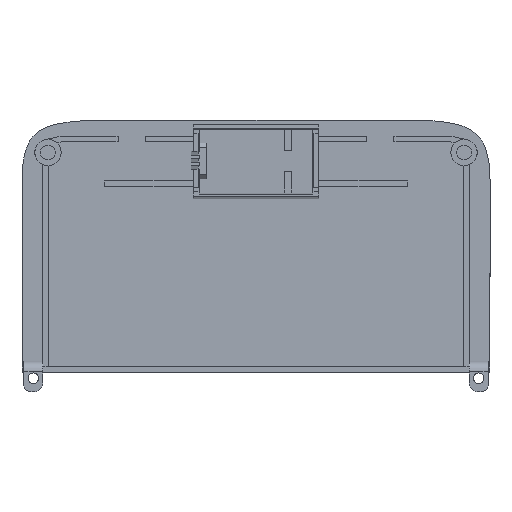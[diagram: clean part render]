
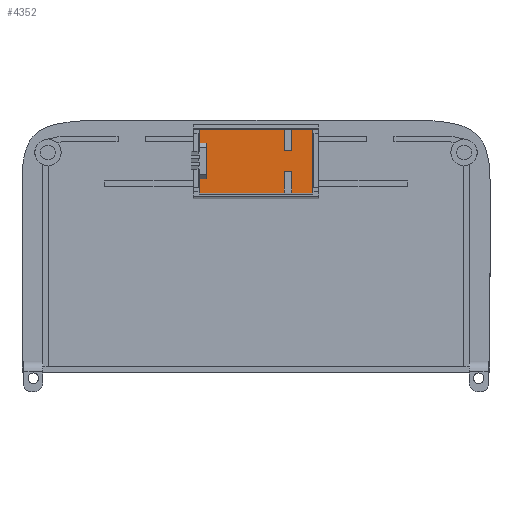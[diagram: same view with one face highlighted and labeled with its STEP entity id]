
A CAD part, top view. The second image highlights one B-rep face of the part: STEP entity #4352.
In plain terms, the highlighted planar face has unit normal (0, 0, 1).
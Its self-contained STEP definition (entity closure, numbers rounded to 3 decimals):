
#1 = ORIENTED_EDGE ( 'NONE', *, *, #3543, .T. ) ;
#22 = DIRECTION ( 'NONE',  ( 1., 0., 0. ) ) ;
#27 = ORIENTED_EDGE ( 'NONE', *, *, #4288, .T. ) ;
#47 = CARTESIAN_POINT ( 'NONE',  ( -8., 57.15, -2.8 ) ) ;
#105 = CARTESIAN_POINT ( 'NONE',  ( -8., 64.15, -2.8 ) ) ;
#112 = DIRECTION ( 'NONE',  ( -1., 0., 0. ) ) ;
#142 = CARTESIAN_POINT ( 'NONE',  ( 4., 57.15, -2.8 ) ) ;
#211 = EDGE_CURVE ( 'NONE', #1122, #4552, #3691, .T. ) ;
#263 = EDGE_CURVE ( 'NONE', #2729, #352, #2536, .T. ) ;
#318 = ORIENTED_EDGE ( 'NONE', *, *, #3169, .T. ) ;
#338 = CARTESIAN_POINT ( 'NONE',  ( 4., 63.15, -2.8 ) ) ;
#352 = VERTEX_POINT ( 'NONE', #2835 ) ;
#358 = EDGE_CURVE ( 'NONE', #4432, #2198, #402, .T. ) ;
#371 = ORIENTED_EDGE ( 'NONE', *, *, #1194, .T. ) ;
#376 = LINE ( 'NONE', #2560, #3857 ) ;
#402 = LINE ( 'NONE', #3918, #3439 ) ;
#453 = VECTOR ( 'NONE', #3866, 1000. ) ;
#467 = FACE_OUTER_BOUND ( 'NONE', #1565, .T. ) ;
#543 = DIRECTION ( 'NONE',  ( 0., 1., 0. ) ) ;
#578 = CARTESIAN_POINT ( 'NONE',  ( -7., 64.15, -2.8 ) ) ;
#605 = VERTEX_POINT ( 'NONE', #1040 ) ;
#645 = AXIS2_PLACEMENT_3D ( 'NONE', #3662, #2299, #112 ) ;
#673 = VECTOR ( 'NONE', #1098, 1000. ) ;
#699 = LINE ( 'NONE', #2123, #1478 ) ;
#718 = VECTOR ( 'NONE', #2447, 1000. ) ;
#756 = VECTOR ( 'NONE', #2478, 1000. ) ;
#776 = DIRECTION ( 'NONE',  ( 0., -1., 0. ) ) ;
#836 = LINE ( 'NONE', #2265, #3159 ) ;
#845 = PLANE ( 'NONE',  #645 ) ;
#848 = CARTESIAN_POINT ( 'NONE',  ( -8., 59.15, -2.8 ) ) ;
#1020 = DIRECTION ( 'NONE',  ( 1., 0., 0. ) ) ;
#1028 = VERTEX_POINT ( 'NONE', #2959 ) ;
#1038 = LINE ( 'NONE', #2402, #718 ) ;
#1040 = CARTESIAN_POINT ( 'NONE',  ( 8., 66.15, -2.8 ) ) ;
#1049 = EDGE_CURVE ( 'NONE', #1921, #2729, #1950, .T. ) ;
#1098 = DIRECTION ( 'NONE',  ( 0., -1., 0. ) ) ;
#1122 = VERTEX_POINT ( 'NONE', #1199 ) ;
#1160 = VECTOR ( 'NONE', #4643, 1000. ) ;
#1194 = EDGE_CURVE ( 'NONE', #3658, #1028, #4420, .T. ) ;
#1199 = CARTESIAN_POINT ( 'NONE',  ( 4., 66.15, -2.8 ) ) ;
#1242 = CARTESIAN_POINT ( 'NONE',  ( -8., 66.15, -2.8 ) ) ;
#1250 = LINE ( 'NONE', #142, #4396 ) ;
#1287 = CARTESIAN_POINT ( 'NONE',  ( 4., 66.15, -2.8 ) ) ;
#1308 = CARTESIAN_POINT ( 'NONE',  ( -8., 59.15, -2.8 ) ) ;
#1398 = CARTESIAN_POINT ( 'NONE',  ( 4., 63.15, -2.8 ) ) ;
#1476 = LINE ( 'NONE', #4315, #673 ) ;
#1478 = VECTOR ( 'NONE', #3560, 1000. ) ;
#1488 = CARTESIAN_POINT ( 'NONE',  ( -8., 64.15, -2.8 ) ) ;
#1506 = CARTESIAN_POINT ( 'NONE',  ( 5., 57.15, -2.8 ) ) ;
#1531 = ORIENTED_EDGE ( 'NONE', *, *, #263, .T. ) ;
#1558 = EDGE_CURVE ( 'NONE', #3130, #1921, #836, .T. ) ;
#1565 = EDGE_LOOP ( 'NONE', ( #371, #2399, #318, #2818, #2488, #4139, #2420, #1874, #1531, #1, #1854, #3238, #2158, #2642, #2793, #27 ) ) ;
#1848 = CARTESIAN_POINT ( 'NONE',  ( 4., 57.15, -2.8 ) ) ;
#1854 = ORIENTED_EDGE ( 'NONE', *, *, #1904, .T. ) ;
#1874 = ORIENTED_EDGE ( 'NONE', *, *, #1049, .T. ) ;
#1877 = VECTOR ( 'NONE', #776, 1000. ) ;
#1895 = CARTESIAN_POINT ( 'NONE',  ( 5., 66.15, -2.8 ) ) ;
#1904 = EDGE_CURVE ( 'NONE', #2609, #2916, #1250, .T. ) ;
#1921 = VERTEX_POINT ( 'NONE', #4488 ) ;
#1950 = LINE ( 'NONE', #848, #2692 ) ;
#2091 = EDGE_CURVE ( 'NONE', #2916, #3898, #376, .T. ) ;
#2123 = CARTESIAN_POINT ( 'NONE',  ( 8., 66.15, -2.8 ) ) ;
#2141 = CARTESIAN_POINT ( 'NONE',  ( 5., 63.15, -2.8 ) ) ;
#2158 = ORIENTED_EDGE ( 'NONE', *, *, #3697, .T. ) ;
#2198 = VERTEX_POINT ( 'NONE', #4644 ) ;
#2218 = VERTEX_POINT ( 'NONE', #1488 ) ;
#2265 = CARTESIAN_POINT ( 'NONE',  ( -7., 66.15, -2.8 ) ) ;
#2278 = VECTOR ( 'NONE', #3008, 1000. ) ;
#2299 = DIRECTION ( 'NONE',  ( 0., 0., -1. ) ) ;
#2399 = ORIENTED_EDGE ( 'NONE', *, *, #2426, .T. ) ;
#2402 = CARTESIAN_POINT ( 'NONE',  ( 8., 57.15, -2.8 ) ) ;
#2420 = ORIENTED_EDGE ( 'NONE', *, *, #1558, .T. ) ;
#2426 = EDGE_CURVE ( 'NONE', #1028, #3219, #2525, .T. ) ;
#2442 = VECTOR ( 'NONE', #3277, 1000. ) ;
#2447 = DIRECTION ( 'NONE',  ( 0., 1., 0. ) ) ;
#2478 = DIRECTION ( 'NONE',  ( 0., 1., 0. ) ) ;
#2488 = ORIENTED_EDGE ( 'NONE', *, *, #2778, .T. ) ;
#2525 = LINE ( 'NONE', #2141, #2822 ) ;
#2536 = LINE ( 'NONE', #47, #1877 ) ;
#2560 = CARTESIAN_POINT ( 'NONE',  ( 4., 60.15, -2.8 ) ) ;
#2583 = CARTESIAN_POINT ( 'NONE',  ( -8., 66.15, -2.8 ) ) ;
#2609 = VERTEX_POINT ( 'NONE', #1848 ) ;
#2631 = CARTESIAN_POINT ( 'NONE',  ( 5., 66.15, -2.8 ) ) ;
#2642 = ORIENTED_EDGE ( 'NONE', *, *, #358, .T. ) ;
#2656 = DIRECTION ( 'NONE',  ( -1., 0., 0. ) ) ;
#2692 = VECTOR ( 'NONE', #2656, 1000. ) ;
#2707 = DIRECTION ( 'NONE',  ( 0., -1., 0. ) ) ;
#2729 = VERTEX_POINT ( 'NONE', #1308 ) ;
#2778 = EDGE_CURVE ( 'NONE', #4552, #2218, #3214, .T. ) ;
#2779 = CARTESIAN_POINT ( 'NONE',  ( -7., 57.15, -2.8 ) ) ;
#2793 = ORIENTED_EDGE ( 'NONE', *, *, #3880, .T. ) ;
#2818 = ORIENTED_EDGE ( 'NONE', *, *, #211, .T. ) ;
#2822 = VECTOR ( 'NONE', #2876, 1000. ) ;
#2827 = LINE ( 'NONE', #2779, #2925 ) ;
#2829 = LINE ( 'NONE', #1398, #756 ) ;
#2835 = CARTESIAN_POINT ( 'NONE',  ( -8., 57.15, -2.8 ) ) ;
#2876 = DIRECTION ( 'NONE',  ( -1., 0., 0. ) ) ;
#2916 = VERTEX_POINT ( 'NONE', #3380 ) ;
#2925 = VECTOR ( 'NONE', #1020, 1000. ) ;
#2959 = CARTESIAN_POINT ( 'NONE',  ( 5., 63.15, -2.8 ) ) ;
#3008 = DIRECTION ( 'NONE',  ( 0., -1., 0. ) ) ;
#3130 = VERTEX_POINT ( 'NONE', #578 ) ;
#3159 = VECTOR ( 'NONE', #2707, 1000. ) ;
#3169 = EDGE_CURVE ( 'NONE', #3219, #1122, #2829, .T. ) ;
#3199 = CARTESIAN_POINT ( 'NONE',  ( 5., 60.15, -2.8 ) ) ;
#3214 = LINE ( 'NONE', #2583, #1160 ) ;
#3219 = VERTEX_POINT ( 'NONE', #338 ) ;
#3238 = ORIENTED_EDGE ( 'NONE', *, *, #2091, .T. ) ;
#3265 = DIRECTION ( 'NONE',  ( 1., 0., 0. ) ) ;
#3277 = DIRECTION ( 'NONE',  ( 1., 0., 0. ) ) ;
#3321 = LINE ( 'NONE', #105, #2442 ) ;
#3380 = CARTESIAN_POINT ( 'NONE',  ( 4., 60.15, -2.8 ) ) ;
#3439 = VECTOR ( 'NONE', #3265, 1000. ) ;
#3543 = EDGE_CURVE ( 'NONE', #352, #2609, #2827, .T. ) ;
#3560 = DIRECTION ( 'NONE',  ( -1., 0., 0. ) ) ;
#3658 = VERTEX_POINT ( 'NONE', #1895 ) ;
#3662 = CARTESIAN_POINT ( 'NONE',  ( 0., 0., -2.8 ) ) ;
#3691 = LINE ( 'NONE', #1287, #453 ) ;
#3697 = EDGE_CURVE ( 'NONE', #3898, #4432, #1476, .T. ) ;
#3857 = VECTOR ( 'NONE', #22, 1000. ) ;
#3866 = DIRECTION ( 'NONE',  ( -1., 0., 0. ) ) ;
#3880 = EDGE_CURVE ( 'NONE', #2198, #605, #1038, .T. ) ;
#3898 = VERTEX_POINT ( 'NONE', #3199 ) ;
#3918 = CARTESIAN_POINT ( 'NONE',  ( 5., 57.15, -2.8 ) ) ;
#4036 = EDGE_CURVE ( 'NONE', #2218, #3130, #3321, .T. ) ;
#4139 = ORIENTED_EDGE ( 'NONE', *, *, #4036, .T. ) ;
#4288 = EDGE_CURVE ( 'NONE', #605, #3658, #699, .T. ) ;
#4315 = CARTESIAN_POINT ( 'NONE',  ( 5., 60.15, -2.8 ) ) ;
#4352 = ADVANCED_FACE ( 'NONE', ( #467 ), #845, .F. ) ;
#4396 = VECTOR ( 'NONE', #543, 1000. ) ;
#4420 = LINE ( 'NONE', #2631, #2278 ) ;
#4432 = VERTEX_POINT ( 'NONE', #1506 ) ;
#4488 = CARTESIAN_POINT ( 'NONE',  ( -7., 59.15, -2.8 ) ) ;
#4552 = VERTEX_POINT ( 'NONE', #1242 ) ;
#4643 = DIRECTION ( 'NONE',  ( 0., -1., 0. ) ) ;
#4644 = CARTESIAN_POINT ( 'NONE',  ( 8., 57.15, -2.8 ) ) ;
